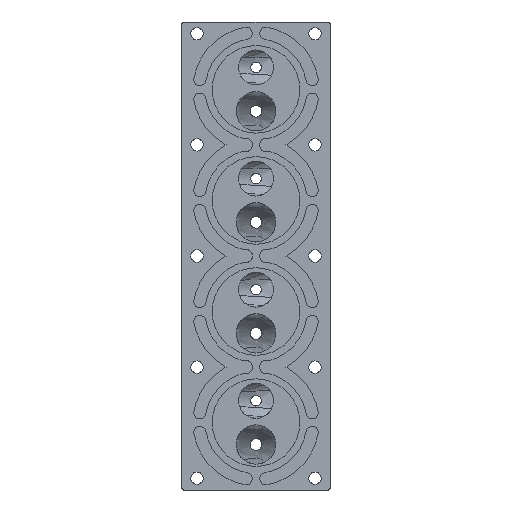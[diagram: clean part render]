
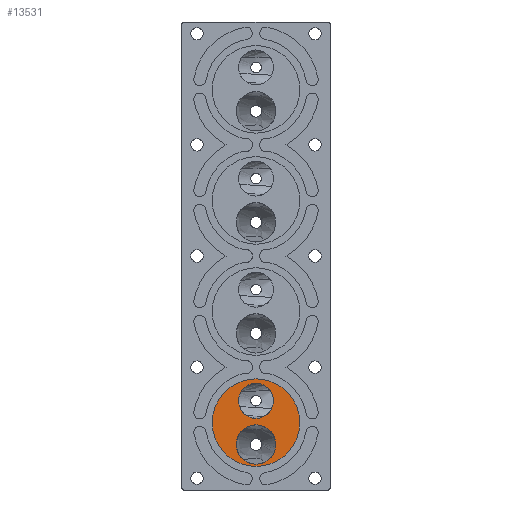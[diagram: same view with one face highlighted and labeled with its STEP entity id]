
A CAD part, front view. The second image highlights one B-rep face of the part: STEP entity #13531.
In plain terms, the highlighted planar face has unit normal (0, -1, 0).
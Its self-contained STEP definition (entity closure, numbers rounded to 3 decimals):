
#354 = EDGE_LOOP ( 'NONE', ( #5690, #2999 ) ) ;
#1083 = CARTESIAN_POINT ( 'NONE',  ( 0., 232.92, -415.38 ) ) ;
#1702 = CARTESIAN_POINT ( 'NONE',  ( 0., 232.92, -393.88 ) ) ;
#1760 = EDGE_CURVE ( 'NONE', #9556, #6943, #13800, .T. ) ;
#2318 = DIRECTION ( 'NONE',  ( 0., -1., 0. ) ) ;
#2999 = ORIENTED_EDGE ( 'NONE', *, *, #13339, .F. ) ;
#3251 = EDGE_CURVE ( 'NONE', #6943, #9556, #4234, .T. ) ;
#3268 = VERTEX_POINT ( 'NONE', #22131 ) ;
#4193 = AXIS2_PLACEMENT_3D ( 'NONE', #18828, #9117, #9595 ) ;
#4234 = CIRCLE ( 'NONE', #22865, 43. ) ;
#5066 = CARTESIAN_POINT ( 'NONE',  ( 0., 232.92, 0. ) ) ;
#5098 = DIRECTION ( 'NONE',  ( 1., 0., 0. ) ) ;
#5690 = ORIENTED_EDGE ( 'NONE', *, *, #15998, .F. ) ;
#5691 = CIRCLE ( 'NONE', #4193, 17.2 ) ;
#6023 = CARTESIAN_POINT ( 'NONE',  ( -43., 232.92, -393.88 ) ) ;
#6048 = DIRECTION ( 'NONE',  ( 0., 1., 0. ) ) ;
#6867 = DIRECTION ( 'NONE',  ( 0., -1., 0. ) ) ;
#6943 = VERTEX_POINT ( 'NONE', #6023 ) ;
#7414 = VERTEX_POINT ( 'NONE', #14405 ) ;
#7985 = DIRECTION ( 'NONE',  ( 0., -1., 0. ) ) ;
#9117 = DIRECTION ( 'NONE',  ( 0., -1., 0. ) ) ;
#9520 = EDGE_CURVE ( 'NONE', #7414, #14921, #5691, .T. ) ;
#9556 = VERTEX_POINT ( 'NONE', #15178 ) ;
#9595 = DIRECTION ( 'NONE',  ( 1., 0., 0. ) ) ;
#9974 = CIRCLE ( 'NONE', #18122, 17.2 ) ;
#10037 = EDGE_CURVE ( 'NONE', #14921, #7414, #9974, .T. ) ;
#10301 = AXIS2_PLACEMENT_3D ( 'NONE', #22350, #6048, #17108 ) ;
#10625 = FACE_BOUND ( 'NONE', #354, .T. ) ;
#10812 = DIRECTION ( 'NONE',  ( 1., 0., 0. ) ) ;
#11589 = EDGE_LOOP ( 'NONE', ( #17076, #16497 ) ) ;
#11822 = EDGE_LOOP ( 'NONE', ( #12902, #14190 ) ) ;
#12223 = AXIS2_PLACEMENT_3D ( 'NONE', #13242, #2318, #20674 ) ;
#12732 = DIRECTION ( 'NONE',  ( 0., -1., 0. ) ) ;
#12902 = ORIENTED_EDGE ( 'NONE', *, *, #3251, .F. ) ;
#13242 = CARTESIAN_POINT ( 'NONE',  ( 0., 232.92, -415.38 ) ) ;
#13339 = EDGE_CURVE ( 'NONE', #3268, #22690, #23898, .T. ) ;
#13531 = ADVANCED_FACE ( 'NONE', ( #10625, #16100, #17570 ), #15874, .T. ) ;
#13800 = CIRCLE ( 'NONE', #10301, 43. ) ;
#14190 = ORIENTED_EDGE ( 'NONE', *, *, #1760, .F. ) ;
#14191 = AXIS2_PLACEMENT_3D ( 'NONE', #5066, #6867, #15738 ) ;
#14405 = CARTESIAN_POINT ( 'NONE',  ( 17.2, 232.92, -372.38 ) ) ;
#14574 = DIRECTION ( 'NONE',  ( 0., 1., 0. ) ) ;
#14921 = VERTEX_POINT ( 'NONE', #18946 ) ;
#15031 = CIRCLE ( 'NONE', #16954, 19.35 ) ;
#15178 = CARTESIAN_POINT ( 'NONE',  ( 43., 232.92, -393.88 ) ) ;
#15396 = DIRECTION ( 'NONE',  ( 1., 0., 0. ) ) ;
#15738 = DIRECTION ( 'NONE',  ( 1., 0., 0. ) ) ;
#15874 = PLANE ( 'NONE',  #14191 ) ;
#15998 = EDGE_CURVE ( 'NONE', #22690, #3268, #15031, .T. ) ;
#16100 = FACE_BOUND ( 'NONE', #11589, .T. ) ;
#16497 = ORIENTED_EDGE ( 'NONE', *, *, #10037, .F. ) ;
#16954 = AXIS2_PLACEMENT_3D ( 'NONE', #1083, #7985, #15396 ) ;
#17076 = ORIENTED_EDGE ( 'NONE', *, *, #9520, .F. ) ;
#17108 = DIRECTION ( 'NONE',  ( 1., 0., 0. ) ) ;
#17570 = FACE_OUTER_BOUND ( 'NONE', #11822, .T. ) ;
#18122 = AXIS2_PLACEMENT_3D ( 'NONE', #23823, #12732, #5098 ) ;
#18312 = CARTESIAN_POINT ( 'NONE',  ( 19.35, 232.92, -415.38 ) ) ;
#18828 = CARTESIAN_POINT ( 'NONE',  ( 0., 232.92, -372.38 ) ) ;
#18946 = CARTESIAN_POINT ( 'NONE',  ( -17.2, 232.92, -372.38 ) ) ;
#20674 = DIRECTION ( 'NONE',  ( 1., 0., 0. ) ) ;
#22131 = CARTESIAN_POINT ( 'NONE',  ( -19.35, 232.92, -415.38 ) ) ;
#22350 = CARTESIAN_POINT ( 'NONE',  ( 0., 232.92, -393.88 ) ) ;
#22690 = VERTEX_POINT ( 'NONE', #18312 ) ;
#22865 = AXIS2_PLACEMENT_3D ( 'NONE', #1702, #14574, #10812 ) ;
#23823 = CARTESIAN_POINT ( 'NONE',  ( 0., 232.92, -372.38 ) ) ;
#23898 = CIRCLE ( 'NONE', #12223, 19.35 ) ;
